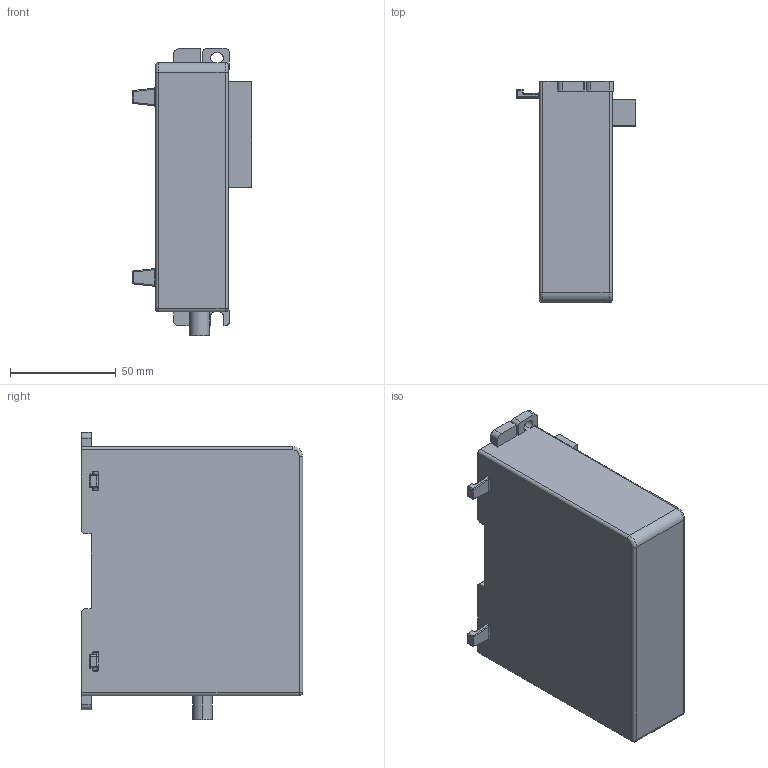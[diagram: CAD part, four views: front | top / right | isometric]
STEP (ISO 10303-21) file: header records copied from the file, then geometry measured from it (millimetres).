
FILE_DESCRIPTION((''),'2;1');
FILE_NAME('1768-CASE','2010-04-05T',('skang'),('Rockwell Automation'),'PRO/ENGINEER BY PARAMETRIC TECHNOLOGY CORPORATION, 2005110','PRO/ENGINEER BY PARAMETRIC TECHNOLOGY CORPORATION, 2005110','');
FILE_SCHEMA(('CONFIG_CONTROL_DESIGN'));
Length unit declared in the file: inch
Products named in the file (1): 1768-CASE
Bounding box: 56.69 x 104.8 x 136.05 mm (x, y, z)
Volume: 425404 mm3; surface area: 44139.6 mm2
Topology: 1 solids, 1 shells, 149 faces, 356 edges, 214 vertices
Faces by surface type: plane 61, cylinder 58, sphere 14, bspline 12, extrusion 2, torus 2
Entity records: 4853 total; most frequent: CARTESIAN_POINT 1395, ORIENTED_EDGE 712, DIRECTION 707, EDGE_CURVE 356, AXIS2_PLACEMENT_3D 242, VECTOR 223, LINE 221, VERTEX_POINT 214
